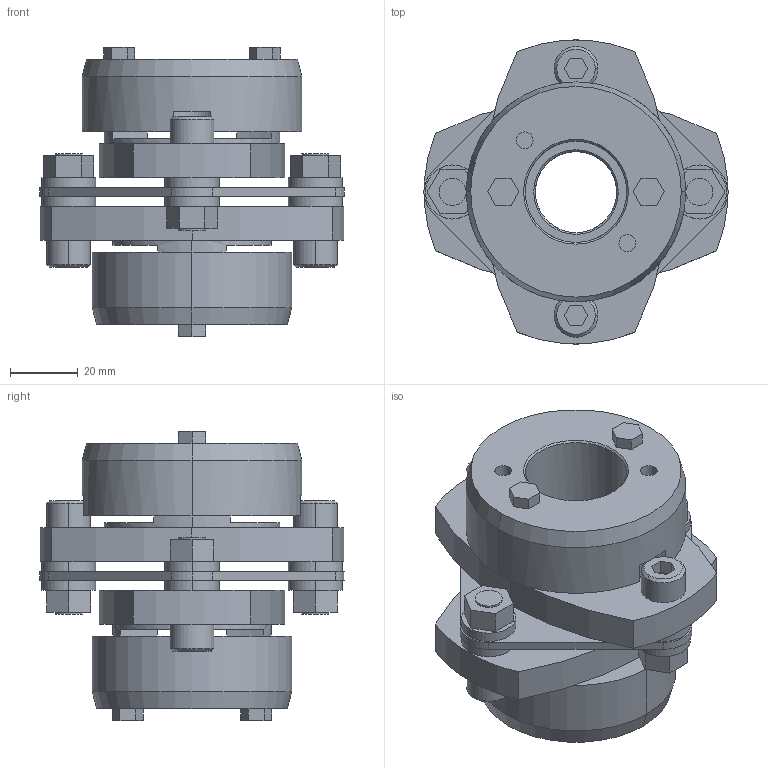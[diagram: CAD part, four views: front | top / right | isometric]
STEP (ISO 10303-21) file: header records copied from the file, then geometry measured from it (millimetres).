
FILE_DESCRIPTION((''),'2;1');
FILE_NAME('LCS-90T7-24×30.stp','2015-11-01T20:20:10',(''),(''),'AutoCAD STEP 2000i','AutoCAD 2000i',', , ');
FILE_SCHEMA(('CONFIG_CONTROL_DESIGN'));
Length unit declared in the file: millimetre
Products named in the file (10): LCS-90T7-25×30; 忣兜1; LC90T7-T030; LC90T7-T025-1; LC90T7-T025; LC90T7-T019-1; LC90T7-T019; LC90-B019-1; LC90-B019; LCS90-ITA
Assembly tree (9 placements, depth 2):
  LCS-90T7-25×30
    忣兜1
    LC90T7-T030
    LC90T7-T025-1
    LC90T7-T025
    LC90T7-T019-1
    LC90T7-T019
    LC90-B019-1
    LC90-B019
    LCS90-ITA
Bounding box: 90 x 89.94 x 85.5 mm (x, y, z)
Volume: 202995.6 mm3; surface area: 53000.3 mm2
Topology: 1 solids, 1 shells, 222 faces, 544 edges, 356 vertices
Faces by surface type: plane 120, cylinder 82, cone 20
Entity records: 6829 total; most frequent: DIRECTION 1212, CARTESIAN_POINT 1132, ORIENTED_EDGE 1088, EDGE_CURVE 544, AXIS2_PLACEMENT_3D 436, VERTEX_POINT 356, VECTOR 340, LINE 340
